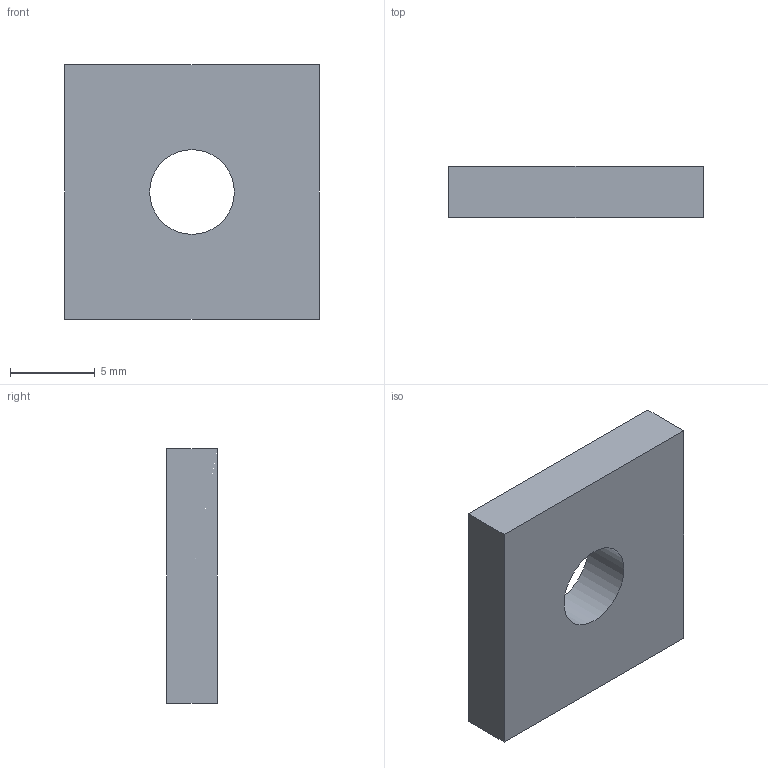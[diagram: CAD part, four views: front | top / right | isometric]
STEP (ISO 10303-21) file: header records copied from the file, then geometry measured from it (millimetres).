
FILE_DESCRIPTION(/* description */ ('Unknown'),/* implementation_level */ '2;1');
FILE_NAME(/* name */ 'BSN08M6',/* time_stamp */ '2018-11-12T17:09:39+00:00',/* author */ ('Unknown'),/* organization */ ('Unknown'),/* preprocessor_version */ 'ST-DEVELOPER v16.7',/* originating_system */ 'DEX',/* authorisation */ $);
FILE_SCHEMA (('AUTOMOTIVE_DESIGN {1 0 10303 214 3 1 1}'));
Length unit declared in the file: millimetre
Products named in the file (1): BSN08M6
Bounding box: 15 x 3 x 15 mm (x, y, z)
Volume: 616.1 mm3; surface area: 637.9 mm2
Topology: 1 solids, 1 shells, 7 faces, 15 edges, 10 vertices
Faces by surface type: plane 6, cylinder 1
Full cylindrical faces by diameter (mm): 5 x1
Entity records: 220 total; most frequent: DIRECTION 32, CARTESIAN_POINT 32, ORIENTED_EDGE 28, EDGE_CURVE 14, LINE 12, VECTOR 12, VERTEX_POINT 10, EDGE_LOOP 10
